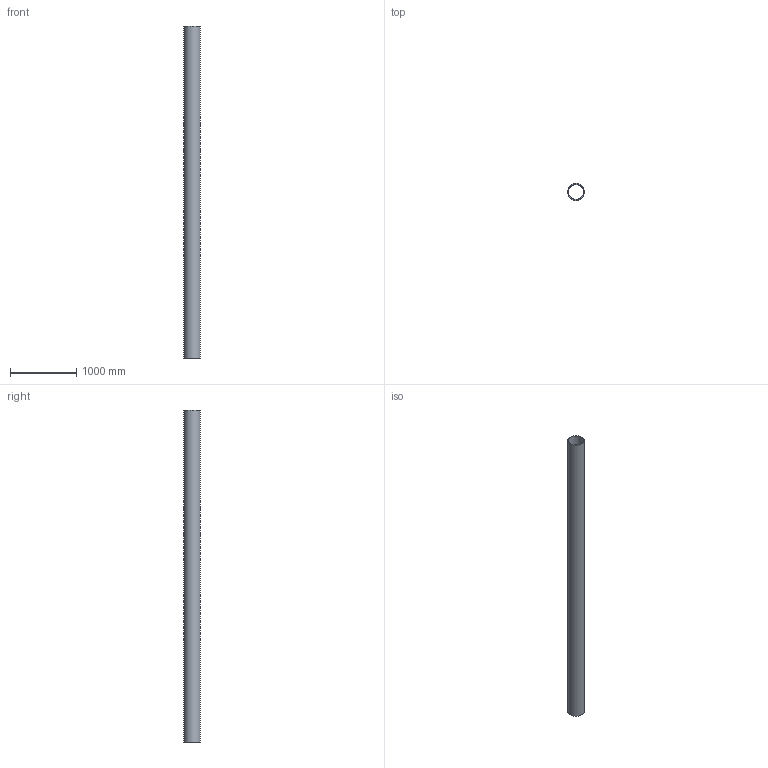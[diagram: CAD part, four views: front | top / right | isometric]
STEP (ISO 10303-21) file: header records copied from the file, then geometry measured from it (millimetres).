
FILE_DESCRIPTION(/* description */ (''),/* implementation_level */ '2;1');
FILE_NAME(/* name */ 'Z:\Geberit\Export\Export18\Rohr PE_Ipart\stp\371050.stp',/* time_stamp */ '2014-08-26T22:08:41+02:00',/* author */ ('Bründl'),/* organization */ (''),/* preprocessor_version */ 'ST-DEVELOPER v15.2',/* originating_system */ 'Autodesk Inventor 2014',/* authorisation */ '');
FILE_SCHEMA (('AUTOMOTIVE_DESIGN { 1 0 10303 214 3 1 1 }'));
Length unit declared in the file: millimetre
Products named in the file (1): 371050
Bounding box: 250 x 250 x 5000 mm (x, y, z)
Volume: 36613848.7 mm3; surface area: 7563892.7 mm2
Topology: 1 solids, 1 shells, 4 faces, 6 edges, 4 vertices
Faces by surface type: cylinder 2, plane 2
Full cylindrical faces by diameter (mm): 230.6 x1, 250 x1
Entity records: 113 total; most frequent: DIRECTION 18, CARTESIAN_POINT 13, AXIS2_PLACEMENT_3D 9, EDGE_LOOP 8, ORIENTED_EDGE 8, FACE_BOUND 6, STYLED_ITEM 5, CIRCLE 4
